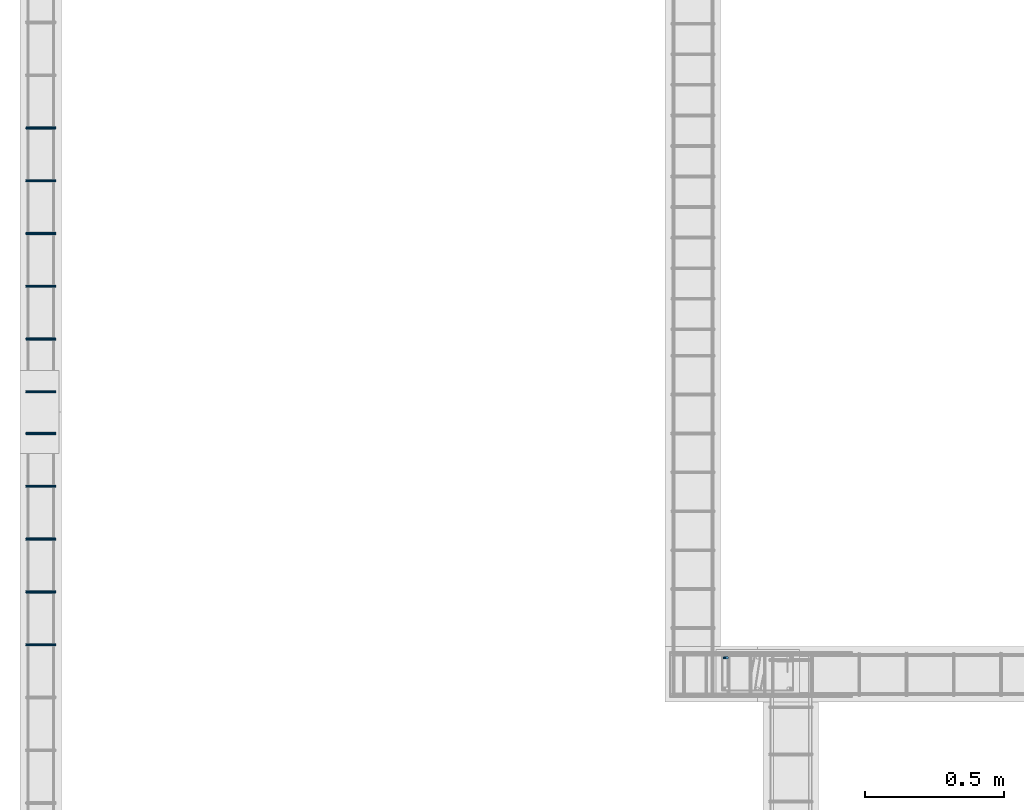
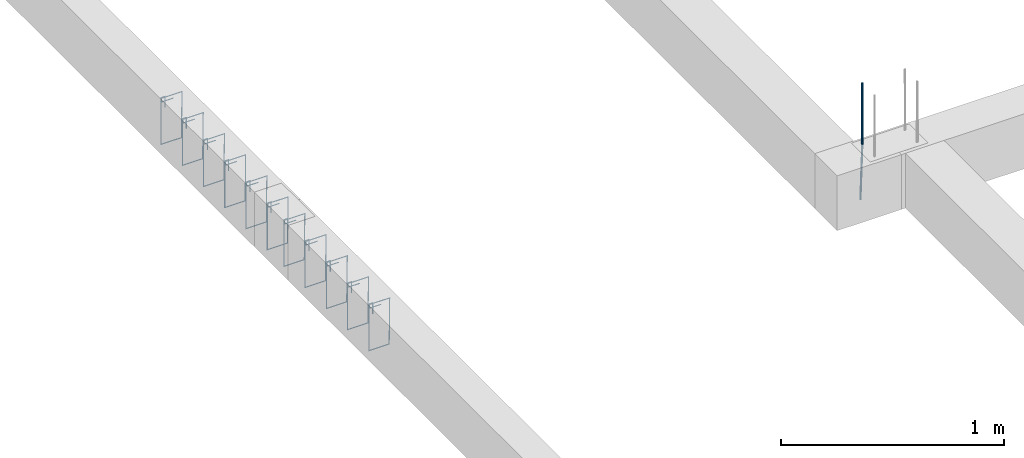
# One storey, part 110 of 150: 12 reinforcing bars.
"""IFC4 building model written with IfcOpenShell, lengths in centimetres."""

from ifc_helpers import new_model, entity, si_unit, derived_unit, frame, origin_with_axes, place, context, project, spatial, source, transform, mapped, element, save


model = new_model("IFC4")

# Units and contexts
model_context = context("Model", 3, precision=1e-05, world=origin_with_axes(), identifier="Body")
ifc_project = project(units=[si_unit("LENGTHUNIT", "METRE", prefix="CENTI"), si_unit("VOLUMEUNIT", "CUBIC_METRE"), si_unit("AREAUNIT", "SQUARE_METRE"), si_unit("POWERUNIT", "WATT"), si_unit("LUMINOUSFLUXUNIT", "LUMEN"), si_unit("ELECTRICCURRENTUNIT", "AMPERE"), si_unit("PRESSUREUNIT", "PASCAL", prefix="KILO"), si_unit("MASSUNIT", "GRAM", prefix="KILO"), si_unit("PLANEANGLEUNIT", "RADIAN"), derived_unit("VOLUMETRICFLOWRATEUNIT", [(si_unit("LENGTHUNIT", "METRE"), 3), (si_unit("TIMEUNIT", "SECOND"), -1)])], contexts=[model_context])

# Site, building, storey
site_placement = place(None, frame((-4000.0, 0.0, 0.0), z_axis=(0.0, 0.0, 1.0), x_axis=(1.0, 0.0, 0.0)))
site = spatial("IfcSite", under=ifc_project, at=site_placement, Name="PADRÃO")
building_placement = place(site_placement, frame((0.0, 0.0, -14.0)))
building = spatial("IfcBuilding", under=site, at=building_placement, Name="CRECHE PRÉ-ESCOLA TIPO 2")
placement = place(building_placement, origin_with_axes())
storey_placement = place(placement, frame((0.0, 0.0, 30.0), z_axis=(0.0, 0.0, 1.0), x_axis=(1.0, 0.0, 0.0)))
storey = spatial("IfcBuildingStorey", under=building, at=storey_placement, Name="VIGA BALDRAME", CompositionType="ELEMENT", Elevation=16.0)

# Reinforcing bars
shared_shape_1 = source(origin_with_axes(), model_context, "Body", "AdvancedSweptSolid", [
    entity("IfcSweptDiskSolid", entity("IfcCompositeCurve", [entity("IfcCompositeCurveSegment", "CONTINUOUS", True, entity("IfcPolyline", [entity("IfcCartesianPoint", [2.0, -6.0, 0.0]), entity("IfcCartesianPoint", [2.0, 0.0, 0.0])])), entity("IfcCompositeCurveSegment", "CONTINUOUS", True, entity("IfcPolyline", [entity("IfcCartesianPoint", [2.0, 0.0, 0.0]), entity("IfcCartesianPoint", [0.0, 0.0, 0.0])])), entity("IfcCompositeCurveSegment", "CONTINUOUS", True, entity("IfcPolyline", [entity("IfcCartesianPoint", [0.0, 0.0, 0.0]), entity("IfcCartesianPoint", [0.0, -25.5, 0.0])])), entity("IfcCompositeCurveSegment", "CONTINUOUS", True, entity("IfcPolyline", [entity("IfcCartesianPoint", [0.0, -25.5, 0.0]), entity("IfcCartesianPoint", [10.5, -25.5, 0.0])])), entity("IfcCompositeCurveSegment", "CONTINUOUS", True, entity("IfcPolyline", [entity("IfcCartesianPoint", [10.5, -25.5, 0.0]), entity("IfcCartesianPoint", [10.5, 0.0, 0.5])])), entity("IfcCompositeCurveSegment", "CONTINUOUS", True, entity("IfcPolyline", [entity("IfcCartesianPoint", [10.5, 0.0, 0.5]), entity("IfcCartesianPoint", [0.0, 0.0, 0.5])])), entity("IfcCompositeCurveSegment", "CONTINUOUS", True, entity("IfcPolyline", [entity("IfcCartesianPoint", [0.0, 0.0, 0.5]), entity("IfcCartesianPoint", [0.0, -2.0, 0.5])])), entity("IfcCompositeCurveSegment", "CONTINUOUS", True, entity("IfcPolyline", [entity("IfcCartesianPoint", [0.0, -2.0, 0.5]), entity("IfcCartesianPoint", [6.0, -2.0, 0.5])]))], False), 0.25),
])
for number, where, z_axis, x_axis, name in (
    (1, (3.75, 3211.0, -2.25), (0.0, -1.0, 0.0), (1.0, 0.0, 0.0), "V159 - Estribo"),
    (2, (3.75, 3230.0, -2.25), (0.0, -1.0, 0.0), (1.0, 0.0, 0.0), "V159 - Estribo"),
    (3, (3.75, 3249.0, -2.25), (0.0, -1.0, 0.0), (1.0, 0.0, 0.0), "V159 - Estribo"),
    (4, (3.75, 3268.0, -2.25), (0.0, -1.0, 0.0), (1.0, 0.0, 0.0), "V159 - Estribo"),
    (5, (3.75, 3287.0, -2.25), (0.0, -1.0, 0.0), (1.0, 0.0, 0.0), "V159 - Estribo"),
):
    element("IfcReinforcingBar", number, at=place(storey_placement, frame(where, z_axis=z_axis, x_axis=x_axis)), inside=storey, Name=name, BarLength=0.0, CrossSectionArea=1.9634954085e-05, NominalDiameter=0.5, PredefinedType="MAIN", context=model_context, shape_type="MappedRepresentation", body=[
        mapped(shared_shape_1, transform((0.0, 0.0, 0.0), scale=1.0)),
    ])
shared_shape_2 = source(origin_with_axes(), model_context, "Body", "AdvancedSweptSolid", [
    entity("IfcSweptDiskSolid", entity("IfcCompositeCurve", [entity("IfcCompositeCurveSegment", "CONTINUOUS", True, entity("IfcPolyline", [entity("IfcCartesianPoint", [2.0, -6.0, 0.0]), entity("IfcCartesianPoint", [2.0, 0.0, 0.0])])), entity("IfcCompositeCurveSegment", "CONTINUOUS", True, entity("IfcPolyline", [entity("IfcCartesianPoint", [2.0, 0.0, 0.0]), entity("IfcCartesianPoint", [0.0, 0.0, 0.0])])), entity("IfcCompositeCurveSegment", "CONTINUOUS", True, entity("IfcPolyline", [entity("IfcCartesianPoint", [0.0, 0.0, 0.0]), entity("IfcCartesianPoint", [0.0, -25.5, 0.0])])), entity("IfcCompositeCurveSegment", "CONTINUOUS", True, entity("IfcPolyline", [entity("IfcCartesianPoint", [0.0, -25.5, 0.0]), entity("IfcCartesianPoint", [10.5, -25.5, 0.0])])), entity("IfcCompositeCurveSegment", "CONTINUOUS", True, entity("IfcPolyline", [entity("IfcCartesianPoint", [10.5, -25.5, 0.0]), entity("IfcCartesianPoint", [10.5, 0.0, 0.5])])), entity("IfcCompositeCurveSegment", "CONTINUOUS", True, entity("IfcPolyline", [entity("IfcCartesianPoint", [10.5, 0.0, 0.5]), entity("IfcCartesianPoint", [0.0, 0.0, 0.5])])), entity("IfcCompositeCurveSegment", "CONTINUOUS", True, entity("IfcPolyline", [entity("IfcCartesianPoint", [0.0, 0.0, 0.5]), entity("IfcCartesianPoint", [0.0, -2.0, 0.5])])), entity("IfcCompositeCurveSegment", "CONTINUOUS", True, entity("IfcPolyline", [entity("IfcCartesianPoint", [0.0, -2.0, 0.5]), entity("IfcCartesianPoint", [6.0, -2.0, 0.5])]))], False), 0.25),
])
for number, where, z_axis, x_axis, name in (
    (6, (3.75, 3302.0, -2.25), (0.0, -1.0, 0.0), (1.0, 0.0, 0.0), "V159 - Estribo"),
    (7, (3.75, 3321.0, -2.25), (0.0, -1.0, 0.0), (1.0, 0.0, 0.0), "V159 - Estribo"),
    (8, (3.75, 3340.0, -2.25), (0.0, -1.0, 0.0), (1.0, 0.0, 0.0), "V159 - Estribo"),
    (9, (3.75, 3359.0, -2.25), (0.0, -1.0, 0.0), (1.0, 0.0, 0.0), "V159 - Estribo"),
    (10, (3.75, 3378.0, -2.25), (0.0, -1.0, 0.0), (1.0, 0.0, 0.0), "V159 - Estribo"),
    (11, (3.75, 3397.0, -2.25), (0.0, -1.0, 0.0), (1.0, 0.0, 0.0), "V159 - Estribo"),
):
    element("IfcReinforcingBar", number, at=place(storey_placement, frame(where, z_axis=z_axis, x_axis=x_axis)), inside=storey, Name=name, BarLength=0.0, CrossSectionArea=1.9634954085e-05, NominalDiameter=0.5, PredefinedType="MAIN", context=model_context, shape_type="MappedRepresentation", body=[
        mapped(shared_shape_2, transform((0.0, 0.0, 0.0), scale=1.0)),
    ])
reinforcing_bar_placement = place(storey_placement, frame((255.500138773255, 3206.0, 33.3573001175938), z_axis=(0.0, 0.0, 1.0), x_axis=(1.0, 0.0, 0.0)))
element("IfcReinforcingBar", 12, at=reinforcing_bar_placement, inside=storey, Name="P47 - Longitudinal", BarLength=0.0, CrossSectionArea=7.853981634e-05, NominalDiameter=1.0, PredefinedType="MAIN", context=model_context, shape_type="AdvancedSweptSolid", body=[
    entity("IfcSweptDiskSolid", entity("IfcCompositeCurve", [entity("IfcCompositeCurveSegment", "CONTINUOUS", True, entity("IfcPolyline", [entity("IfcCartesianPoint", [-0.50013877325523, 0.0, -63.3573001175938]), entity("IfcCartesianPoint", [0.49986122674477, 0.0, -33.3573001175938])])), entity("IfcCompositeCurveSegment", "CONTINUOUS", True, entity("IfcPolyline", [entity("IfcCartesianPoint", [0.49986122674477, 0.0, -33.3573001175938]), entity("IfcCartesianPoint", [0.49986122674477, 0.0, 0.0])]))], False), 0.5),
])

save(model, "model.ifc")
